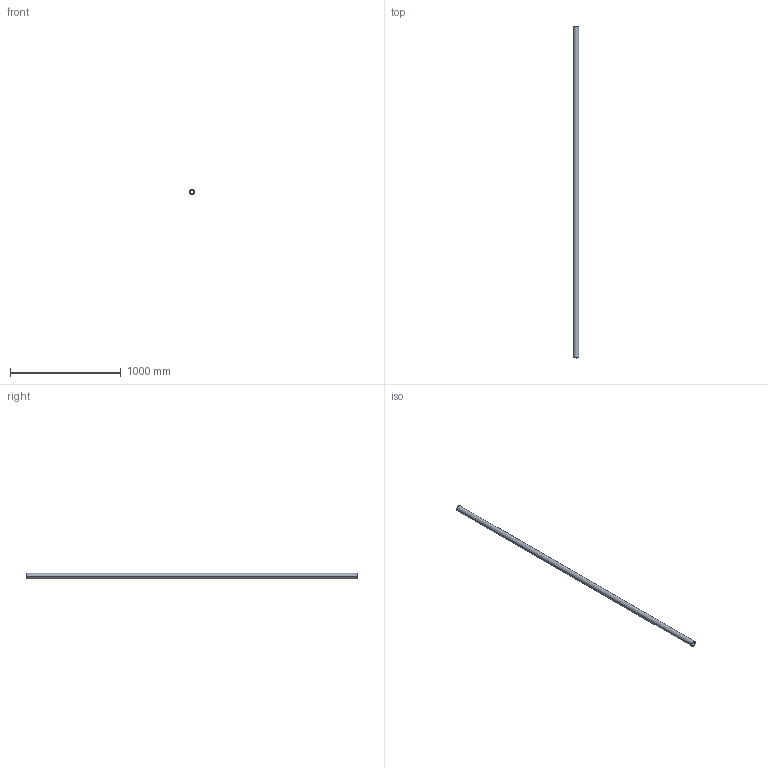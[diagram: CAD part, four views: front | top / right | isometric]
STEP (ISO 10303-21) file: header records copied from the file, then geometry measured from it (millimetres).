
FILE_DESCRIPTION (( 'STEP AP203' ), '1' );
FILE_NAME ('RAILEX STANDARD RXR-TR.STEP', '2021-06-17T15:39:28', ( '' ), ( '' ), 'SwSTEP 2.0', 'SolidWorks 2020', '' );
FILE_SCHEMA (( 'CONFIG_CONTROL_DESIGN' ));
Length unit declared in the file: millimetre
Products named in the file (1): RAILEX STANDARD RXR-TR
Bounding box: 50 x 3000 x 50 mm (x, y, z)
Volume: 2629890 mm3; surface area: 823593.9 mm2
Topology: 1 solids, 1 shells, 6 faces, 12 edges, 8 vertices
Faces by surface type: cylinder 4, plane 2
Entity records: 245 total; most frequent: DIRECTION 34, CARTESIAN_POINT 27, ORIENTED_EDGE 24, AXIS2_PLACEMENT_3D 15, EDGE_CURVE 12, PERSON_AND_ORGANIZATION 8, CIRCLE 8, VERTEX_POINT 8
